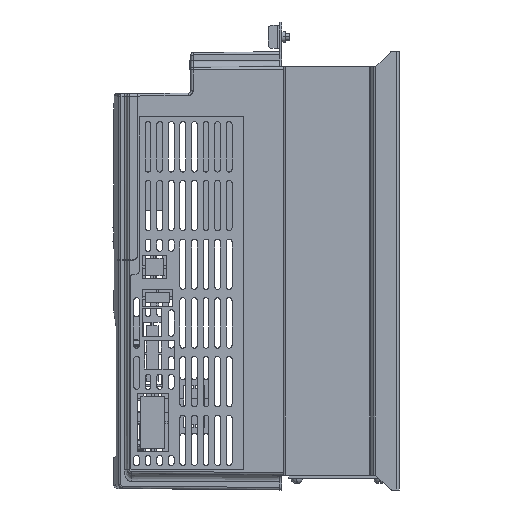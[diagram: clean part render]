
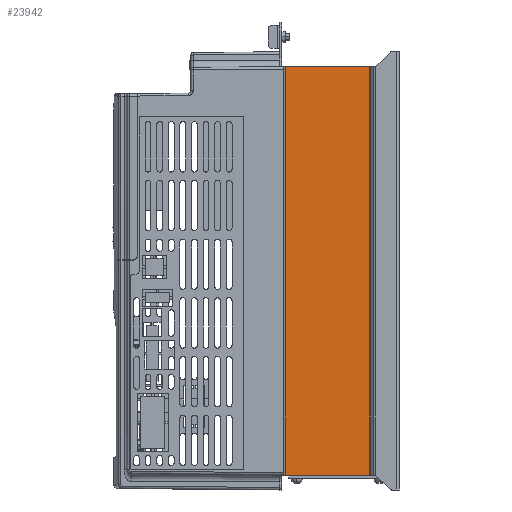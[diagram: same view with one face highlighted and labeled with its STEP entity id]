
A CAD part, left-side view. The second image highlights one B-rep face of the part: STEP entity #23942.
In plain terms, the highlighted planar face has unit normal (-1, 0, 0) as drawn and (1, 0, 0) by its records, which use the part's own axes.
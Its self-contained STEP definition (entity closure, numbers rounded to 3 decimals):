
#20096=DIRECTION('',(0.,0.,1.));
#20097=VECTOR('',#20096,246.965);
#20098=CARTESIAN_POINT('',(78.,-17.707,-123.465));
#20099=LINE('',#20098,#20097);
#20140=DIRECTION('',(0.,0.,-1.));
#20141=VECTOR('',#20140,246.965);
#20142=CARTESIAN_POINT('',(78.,-68.7,123.5));
#20143=LINE('',#20142,#20141);
#20158=DIRECTION('',(0.,1.,0.));
#20159=VECTOR('',#20158,50.993);
#20160=CARTESIAN_POINT('',(78.,-68.7,-123.465));
#20161=LINE('',#20160,#20159);
#20162=DIRECTION('',(0.,1.,0.));
#20163=VECTOR('',#20162,50.993);
#20164=CARTESIAN_POINT('',(78.,-68.7,123.5));
#20165=LINE('',#20164,#20163);
#21870=CARTESIAN_POINT('',(78.,-17.707,-123.465));
#21871=VERTEX_POINT('',#21870);
#21874=CARTESIAN_POINT('',(78.,-17.707,123.5));
#21875=VERTEX_POINT('',#21874);
#21878=CARTESIAN_POINT('',(78.,-68.7,123.5));
#21880=VERTEX_POINT('',#21878);
#21887=CARTESIAN_POINT('',(78.,-68.7,-123.465));
#21889=VERTEX_POINT('',#21887);
#23931=CARTESIAN_POINT('',(78.,-70.,-132.5));
#23932=DIRECTION('',(1.,0.,0.));
#23933=DIRECTION('',(0.,1.,0.));
#23934=AXIS2_PLACEMENT_3D('',#23931,#23932,#23933);
#23935=PLANE('',#23934);
#23936=ORIENTED_EDGE('',*,*,#23897,.F.);
#23937=ORIENTED_EDGE('',*,*,#23867,.T.);
#23938=ORIENTED_EDGE('',*,*,#23838,.F.);
#23939=ORIENTED_EDGE('',*,*,#23923,.F.);
#23940=EDGE_LOOP('',(#23936,#23937,#23938,#23939));
#23941=FACE_OUTER_BOUND('',#23940,.F.);
#23942=ADVANCED_FACE('',(#23941),#23935,.T.);
#23838=EDGE_CURVE('',#21871,#21875,#20099,.T.);
#23867=EDGE_CURVE('',#21880,#21875,#20165,.T.);
#23897=EDGE_CURVE('',#21880,#21889,#20143,.T.);
#23923=EDGE_CURVE('',#21889,#21871,#20161,.T.);
